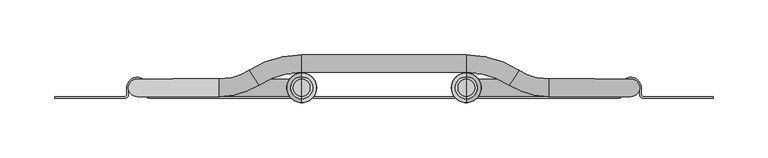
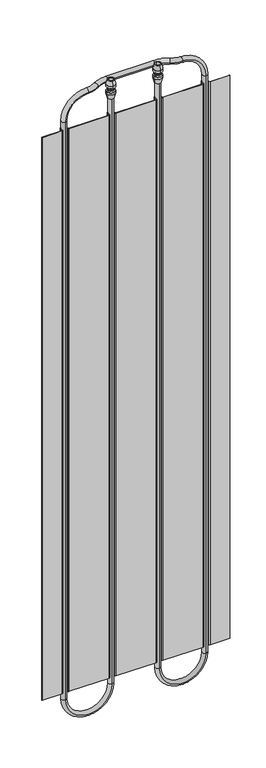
"""IFC4 building model written with IfcOpenShell, lengths in millimetres: plate geometry, 400_56_KOMF_NRG panel_asp_boven : Komfort NRG panel 600."""

from ifc_helpers import new_model, si_unit, point, frame, frame_2d, origin, place, context, project, spatial, polyline, circle_curve, ellipse_curve, trimmed, segment, composite_curve, outline, extrude, source, transform, mapped, element, save
from ifc_brep_helpers import plane_surface, cylinder_surface, revolved_surface, advanced_brep


def plate_3b3e8741(model_context):
    return source(origin(), model_context, "Body", "SolidModel", [
        advanced_brep(
        [(75.0, -2.0, 2420.4), (75.0, 0.0, 2420.4), (75.0, 16.0, 2420.4), (75.0, 18.0, 2420.4), (75.0, -5.5, 2405.4), (75.0, 21.5, 2405.4), (75.0, 0.0, 2405.4), (75.0, 16.0, 2405.4)],
        [
            (0, 1),
            (1, 2, circle_curve(frame((75.0, 8.0, 2420.4), z_axis=(0.0, 0.0, -1.0), x_axis=(0.0, 1.0, 0.0)), 8.0)),
            (2, 3),
            (3, 0, circle_curve(frame((75.0, 8.0, 2420.4), z_axis=(0.0, 0.0, 1.0), x_axis=(0.0, 1.0, 0.0)), 10.0)),
            (2, 1, circle_curve(frame((75.0, 8.0, 2420.4), z_axis=(0.0, 0.0, -1.0), x_axis=(0.0, 1.0, 0.0)), 8.0)),
            (0, 3, circle_curve(frame((75.0, 8.0, 2420.4), z_axis=(0.0, 0.0, 1.0), x_axis=(0.0, 1.0, 0.0)), 10.0)),
            (4, 0),
            (3, 5),
            (5, 4, circle_curve(frame((75.0, 8.0, 2405.4), z_axis=(0.0, 0.0, 1.0), x_axis=(0.0, 1.0, 0.0)), 13.5)),
            (4, 5, circle_curve(frame((75.0, 8.0, 2405.4), z_axis=(0.0, 0.0, 1.0), x_axis=(0.0, 1.0, 0.0)), 13.5)),
            (1, 6),
            (6, 7, circle_curve(frame((75.0, 8.0, 2405.4), z_axis=(0.0, 0.0, -1.0), x_axis=(0.0, 1.0, 0.0)), 8.0)),
            (7, 2),
            (7, 6, circle_curve(frame((75.0, 8.0, 2405.4), z_axis=(0.0, 0.0, -1.0), x_axis=(0.0, 1.0, 0.0)), 8.0)),
            (6, 4),
            (5, 7),
        ],
        [
            plane_surface(frame((75.0, 8.0, 2420.4), z_axis=(0.0, 0.0, 1.0), x_axis=(0.0, 1.0, 0.0))),
            revolved_surface(polyline([(75.0, 18.0, 2420.4), (75.0, 21.5, 2405.4)]), (75.0, 8.0, 2402.4), (0.0, 0.0, -1.0)),
            revolved_surface(polyline([(75.0, 16.0, 2405.4), (75.0, 16.0, 2420.4)]), (75.0, 8.0, 2402.4), (0.0, 0.0, -1.0)),
            plane_surface(frame((75.0, 8.0, 2405.4), z_axis=(0.0, 0.0, -1.0), x_axis=(0.0, 1.0, 0.0))),
        ],
        [
            (0, [[1, 2, 3, 4]]),
            (0, [[-3, 5, -1, 6]]),
            (1, [[7, -4, 8, 9]]),
            (1, [[-8, -6, -7, 10]]),
            (2, [[11, 12, 13, -2]]),
            (2, [[-13, 14, -11, -5]]),
            (3, [[15, -9, 16, -12]]),
            (3, [[-16, -10, -15, -14]]),
        ],
    ),
        advanced_brep(
        [(75.0, -5.5, 2397.4), (75.0, -5.5, 2405.4), (75.0, 21.5, 2405.4), (75.0, 21.5, 2397.4), (75.0, -2.0, 2394.4), (75.0, 18.0, 2394.4), (75.0, -2.0, 2391.4), (75.0, 18.0, 2391.4), (75.0, 8.0, 2391.4), (75.0, 0.0, 2405.4), (75.0, 0.0, 2402.4), (75.0, 16.0, 2402.4), (75.0, 16.0, 2405.4), (75.0, 8.0, 2402.4)],
        [
            (0, 1),
            (1, 2, circle_curve(frame((75.0, 8.0, 2405.4), z_axis=(0.0, 0.0, -1.0), x_axis=(0.0, 1.0, 0.0)), 13.5)),
            (2, 3),
            (3, 0, circle_curve(frame((75.0, 8.0, 2397.4), z_axis=(0.0, 0.0, 1.0), x_axis=(0.0, 1.0, 0.0)), 13.5)),
            (2, 1, circle_curve(frame((75.0, 8.0, 2405.4), z_axis=(0.0, 0.0, -1.0), x_axis=(0.0, 1.0, 0.0)), 13.5)),
            (0, 3, circle_curve(frame((75.0, 8.0, 2397.4), z_axis=(0.0, 0.0, 1.0), x_axis=(0.0, 1.0, 0.0)), 13.5)),
            (4, 0),
            (3, 5),
            (5, 4, circle_curve(frame((75.0, 8.0, 2394.4), z_axis=(0.0, 0.0, 1.0), x_axis=(0.0, 1.0, 0.0)), 10.0)),
            (4, 5, circle_curve(frame((75.0, 8.0, 2394.4), z_axis=(0.0, 0.0, 1.0), x_axis=(0.0, 1.0, 0.0)), 10.0)),
            (6, 4),
            (5, 7),
            (7, 6, circle_curve(frame((75.0, 8.0, 2391.4), z_axis=(0.0, 0.0, 1.0), x_axis=(0.0, 1.0, 0.0)), 10.0)),
            (6, 7, circle_curve(frame((75.0, 8.0, 2391.4), z_axis=(0.0, 0.0, 1.0), x_axis=(0.0, 1.0, 0.0)), 10.0)),
            (8, 6),
            (7, 8),
            (9, 10),
            (10, 11, circle_curve(frame((75.0, 8.0, 2402.4), z_axis=(0.0, 0.0, -1.0), x_axis=(0.0, 1.0, 0.0)), 8.0)),
            (11, 12),
            (12, 9, circle_curve(frame((75.0, 8.0, 2405.4), z_axis=(0.0, 0.0, 1.0), x_axis=(0.0, 1.0, 0.0)), 8.0)),
            (11, 10, circle_curve(frame((75.0, 8.0, 2402.4), z_axis=(0.0, 0.0, -1.0), x_axis=(0.0, 1.0, 0.0)), 8.0)),
            (9, 12, circle_curve(frame((75.0, 8.0, 2405.4), z_axis=(0.0, 0.0, 1.0), x_axis=(0.0, 1.0, 0.0)), 8.0)),
            (10, 13),
            (13, 11),
            (1, 9),
            (12, 2),
        ],
        [
            cylinder_surface(frame((75.0, 8.0, 2402.4), z_axis=(0.0, 0.0, -1.0), x_axis=(0.0, 1.0, 0.0)), 13.5),
            revolved_surface(polyline([(75.0, 21.5, 2397.4), (75.0, 18.0, 2394.4)]), (75.0, 8.0, 2402.4), (0.0, 0.0, -1.0)),
            cylinder_surface(frame((75.0, 8.0, 2402.4), z_axis=(0.0, 0.0, -1.0), x_axis=(0.0, 1.0, 0.0)), 10.0),
            plane_surface(frame((75.0, 8.0, 2391.4), z_axis=(0.0, 0.0, -1.0), x_axis=(0.0, 1.0, 0.0))),
            revolved_surface(polyline([(75.0, 16.0, 2402.4), (75.0, 16.0, 2405.4)]), (75.0, 8.0, 2402.4), (0.0, 0.0, -1.0)),
            plane_surface(frame((75.0, 8.0, 2402.4), z_axis=(0.0, 0.0, 1.0), x_axis=(0.0, 1.0, 0.0))),
            plane_surface(frame((75.0, 8.0, 2405.4), z_axis=(0.0, 0.0, 1.0), x_axis=(0.0, 1.0, 0.0))),
        ],
        [
            (0, [[1, 2, 3, 4]]),
            (0, [[-3, 5, -1, 6]]),
            (1, [[7, -4, 8, 9]]),
            (1, [[-8, -6, -7, 10]]),
            (2, [[11, -9, 12, 13]]),
            (2, [[-12, -10, -11, 14]]),
            (3, [[15, -13, 16]]),
            (3, [[-16, -14, -15]]),
            (4, [[17, 18, 19, 20]]),
            (4, [[-19, 21, -17, 22]]),
            (5, [[23, 24, -18]]),
            (5, [[-24, -23, -21]]),
            (6, [[25, -20, 26, -2]]),
            (6, [[-26, -22, -25, -5]]),
        ],
    ),
        advanced_brep(
        [(65.0, 8.0, 2360.0), (67.0, 8.0, 2360.0), (83.0, 8.0, 2360.0), (85.0, 8.0, 2360.0), (61.5, 8.0, 2375.0), (88.5, 8.0, 2375.0), (67.0, 8.0, 2375.0), (83.0, 8.0, 2375.0)],
        [
            (0, 1),
            (1, 2, circle_curve(frame((75.0, 8.0, 2360.0), z_axis=(0.0, 0.0, 1.0), x_axis=(1.0, 0.0, 0.0)), 8.0)),
            (2, 3),
            (3, 0, circle_curve(frame((75.0, 8.0, 2360.0), z_axis=(0.0, 0.0, -1.0), x_axis=(1.0, 0.0, 0.0)), 10.0)),
            (2, 1, circle_curve(frame((75.0, 8.0, 2360.0), z_axis=(0.0, 0.0, 1.0), x_axis=(1.0, 0.0, 0.0)), 8.0)),
            (0, 3, circle_curve(frame((75.0, 8.0, 2360.0), z_axis=(0.0, 0.0, -1.0), x_axis=(1.0, 0.0, 0.0)), 10.0)),
            (4, 0),
            (3, 5),
            (5, 4, circle_curve(frame((75.0, 8.0, 2375.0), z_axis=(0.0, 0.0, -1.0), x_axis=(1.0, 0.0, 0.0)), 13.5)),
            (4, 5, circle_curve(frame((75.0, 8.0, 2375.0), z_axis=(0.0, 0.0, -1.0), x_axis=(1.0, 0.0, 0.0)), 13.5)),
            (1, 6),
            (6, 7, circle_curve(frame((75.0, 8.0, 2375.0), z_axis=(0.0, 0.0, 1.0), x_axis=(1.0, 0.0, 0.0)), 8.0)),
            (7, 2),
            (7, 6, circle_curve(frame((75.0, 8.0, 2375.0), z_axis=(0.0, 0.0, 1.0), x_axis=(1.0, 0.0, 0.0)), 8.0)),
            (6, 4),
            (5, 7),
        ],
        [
            plane_surface(frame((75.0, 8.0, 2360.0), z_axis=(0.0, 0.0, -1.0), x_axis=(1.0, 0.0, 0.0))),
            revolved_surface(polyline([(85.0, 8.0, 2360.0), (88.5, 8.0, 2375.0)]), (75.0, 8.0, 2378.0), (0.0, 0.0, 1.0)),
            revolved_surface(polyline([(83.0, 8.0, 2375.0), (83.0, 8.0, 2360.0)]), (75.0, 8.0, 2378.0), (0.0, 0.0, 1.0)),
            plane_surface(frame((75.0, 8.0, 2375.0), z_axis=(0.0, 0.0, 1.0), x_axis=(1.0, 0.0, 0.0))),
        ],
        [
            (0, [[1, 2, 3, 4]]),
            (0, [[-3, 5, -1, 6]]),
            (1, [[7, -4, 8, 9]]),
            (1, [[-8, -6, -7, 10]]),
            (2, [[11, 12, 13, -2]]),
            (2, [[-13, 14, -11, -5]]),
            (3, [[15, -9, 16, -12]]),
            (3, [[-16, -10, -15, -14]]),
        ],
    ),
        advanced_brep(
        [(61.5, 8.0, 2383.0), (61.5, 8.0, 2375.0), (88.5, 8.0, 2375.0), (88.5, 8.0, 2383.0), (65.0, 8.0, 2386.0), (85.0, 8.0, 2386.0), (65.0, 8.0, 2389.0), (85.0, 8.0, 2389.0), (75.0, 8.0, 2389.0), (67.0, 8.0, 2375.0), (67.0, 8.0, 2378.0), (83.0, 8.0, 2378.0), (83.0, 8.0, 2375.0), (75.0, 8.0, 2378.0)],
        [
            (0, 1),
            (1, 2, circle_curve(frame((75.0, 8.0, 2375.0), z_axis=(0.0, 0.0, 1.0), x_axis=(1.0, 0.0, 0.0)), 13.5)),
            (2, 3),
            (3, 0, circle_curve(frame((75.0, 8.0, 2383.0), z_axis=(0.0, 0.0, -1.0), x_axis=(1.0, 0.0, 0.0)), 13.5)),
            (2, 1, circle_curve(frame((75.0, 8.0, 2375.0), z_axis=(0.0, 0.0, 1.0), x_axis=(1.0, 0.0, 0.0)), 13.5)),
            (0, 3, circle_curve(frame((75.0, 8.0, 2383.0), z_axis=(0.0, 0.0, -1.0), x_axis=(1.0, 0.0, 0.0)), 13.5)),
            (4, 0),
            (3, 5),
            (5, 4, circle_curve(frame((75.0, 8.0, 2386.0), z_axis=(0.0, 0.0, -1.0), x_axis=(1.0, 0.0, 0.0)), 10.0)),
            (4, 5, circle_curve(frame((75.0, 8.0, 2386.0), z_axis=(0.0, 0.0, -1.0), x_axis=(1.0, 0.0, 0.0)), 10.0)),
            (6, 4),
            (5, 7),
            (7, 6, circle_curve(frame((75.0, 8.0, 2389.0), z_axis=(0.0, 0.0, -1.0), x_axis=(1.0, 0.0, 0.0)), 10.0)),
            (6, 7, circle_curve(frame((75.0, 8.0, 2389.0), z_axis=(0.0, 0.0, -1.0), x_axis=(1.0, 0.0, 0.0)), 10.0)),
            (8, 6),
            (7, 8),
            (9, 10),
            (10, 11, circle_curve(frame((75.0, 8.0, 2378.0), z_axis=(0.0, 0.0, 1.0), x_axis=(1.0, 0.0, 0.0)), 8.0)),
            (11, 12),
            (12, 9, circle_curve(frame((75.0, 8.0, 2375.0), z_axis=(0.0, 0.0, -1.0), x_axis=(1.0, 0.0, 0.0)), 8.0)),
            (11, 10, circle_curve(frame((75.0, 8.0, 2378.0), z_axis=(0.0, 0.0, 1.0), x_axis=(1.0, 0.0, 0.0)), 8.0)),
            (9, 12, circle_curve(frame((75.0, 8.0, 2375.0), z_axis=(0.0, 0.0, -1.0), x_axis=(1.0, 0.0, 0.0)), 8.0)),
            (10, 13),
            (13, 11),
            (1, 9),
            (12, 2),
        ],
        [
            cylinder_surface(frame((75.0, 8.0, 2378.0), z_axis=(0.0, 0.0, 1.0), x_axis=(1.0, 0.0, 0.0)), 13.5),
            revolved_surface(polyline([(88.5, 8.0, 2383.0), (85.0, 8.0, 2386.0)]), (75.0, 8.0, 2378.0), (0.0, 0.0, 1.0)),
            cylinder_surface(frame((75.0, 8.0, 2378.0), z_axis=(0.0, 0.0, 1.0), x_axis=(1.0, 0.0, 0.0)), 10.0),
            plane_surface(frame((75.0, 8.0, 2389.0), z_axis=(0.0, 0.0, 1.0), x_axis=(1.0, 0.0, 0.0))),
            revolved_surface(polyline([(83.0, 8.0, 2378.0), (83.0, 8.0, 2375.0)]), (75.0, 8.0, 2378.0), (0.0, 0.0, 1.0)),
            plane_surface(frame((75.0, 8.0, 2378.0), z_axis=(0.0, 0.0, -1.0), x_axis=(1.0, 0.0, 0.0))),
            plane_surface(frame((75.0, 8.0, 2375.0), z_axis=(0.0, 0.0, -1.0), x_axis=(1.0, 0.0, 0.0))),
        ],
        [
            (0, [[1, 2, 3, 4]]),
            (0, [[-3, 5, -1, 6]]),
            (1, [[7, -4, 8, 9]]),
            (1, [[-8, -6, -7, 10]]),
            (2, [[11, -9, 12, 13]]),
            (2, [[-12, -10, -11, 14]]),
            (3, [[15, -13, 16]]),
            (3, [[-16, -14, -15]]),
            (4, [[17, 18, 19, 20]]),
            (4, [[-19, 21, -17, 22]]),
            (5, [[23, 24, -18]]),
            (5, [[-24, -23, -21]]),
            (6, [[25, -20, 26, -2]]),
            (6, [[-26, -22, -25, -5]]),
        ],
    ),
        extrude(outline(composite_curve([segment(trimmed(circle_curve(frame_2d((75.0, 8.0)), 10.5), [point((64.5, 8.0))], [point((75.0, 18.5))], False, "CARTESIAN"), True, "CONTINUOUS"), segment(trimmed(circle_curve(frame_2d((75.0, 8.0)), 10.5), [point((75.0, 18.5))], [point((85.5, 8.0))], False, "CARTESIAN"), True, "CONTINUOUS"), segment(trimmed(circle_curve(frame_2d((75.0, 8.0)), 10.5), [point((85.5, 8.0))], [point((75.0, -2.5))], False, "CARTESIAN"), True, "CONTINUOUS"), segment(trimmed(circle_curve(frame_2d((75.0, 8.0)), 10.5), [point((75.0, -2.5))], [point((64.5, 8.0))], False, "CARTESIAN"), True, "CONTINUOUS")], self_intersect=False)), frame((0.0, 0.0, 2389.0), z_axis=(0.0, 0.0, 1.0), x_axis=(1.0, 0.0, 0.0)), (0.0, 0.0, 1.0), 2.4),
        extrude(outline(composite_curve([segment(trimmed(circle_curve(frame_2d((75.0, 8.0)), 6.0), [point((69.0, 8.0))], [point((75.0, 14.0))], False, "CARTESIAN"), True, "CONTINUOUS"), segment(trimmed(circle_curve(frame_2d((75.0, 8.0)), 6.0), [point((75.0, 14.0))], [point((81.0, 8.0))], False, "CARTESIAN"), True, "CONTINUOUS"), segment(trimmed(circle_curve(frame_2d((75.0, 8.0)), 6.0), [point((81.0, 8.0))], [point((75.0, 2.0))], False, "CARTESIAN"), True, "CONTINUOUS"), segment(trimmed(circle_curve(frame_2d((75.0, 8.0)), 6.0), [point((75.0, 2.0))], [point((69.0, 8.0))], False, "CARTESIAN"), True, "CONTINUOUS")], self_intersect=False)), frame((0.0, 0.0, 2378.0), z_axis=(0.0, 0.0, 1.0), x_axis=(1.0, 0.0, 0.0)), (0.0, 0.0, 1.0), 24.4),
        advanced_brep(
        [(-75.0, -2.0, 2420.4), (-75.0, 18.0, 2420.4), (-75.0, 16.0, 2420.4), (-75.0, 0.0, 2420.4), (-75.0, -5.5, 2405.4), (-75.0, 21.5, 2405.4), (-75.0, 16.0, 2405.4), (-75.0, 0.0, 2405.4)],
        [
            (0, 1, circle_curve(frame((-75.0, 8.0, 2420.4), z_axis=(0.0, 0.0, 1.0), x_axis=(0.0, 1.0, 0.0)), 10.0)),
            (1, 2),
            (2, 3, circle_curve(frame((-75.0, 8.0, 2420.4), z_axis=(0.0, 0.0, -1.0), x_axis=(0.0, 1.0, 0.0)), 8.0)),
            (3, 0),
            (1, 0, circle_curve(frame((-75.0, 8.0, 2420.4), z_axis=(0.0, 0.0, 1.0), x_axis=(0.0, 1.0, 0.0)), 10.0)),
            (3, 2, circle_curve(frame((-75.0, 8.0, 2420.4), z_axis=(0.0, 0.0, -1.0), x_axis=(0.0, 1.0, 0.0)), 8.0)),
            (4, 5, circle_curve(frame((-75.0, 8.0, 2405.4), z_axis=(0.0, 0.0, 1.0), x_axis=(0.0, 1.0, 0.0)), 13.5)),
            (5, 1),
            (0, 4),
            (5, 4, circle_curve(frame((-75.0, 8.0, 2405.4), z_axis=(0.0, 0.0, 1.0), x_axis=(0.0, 1.0, 0.0)), 13.5)),
            (2, 6),
            (6, 7, circle_curve(frame((-75.0, 8.0, 2405.4), z_axis=(0.0, 0.0, -1.0), x_axis=(0.0, 1.0, 0.0)), 8.0)),
            (7, 3),
            (7, 6, circle_curve(frame((-75.0, 8.0, 2405.4), z_axis=(0.0, 0.0, -1.0), x_axis=(0.0, 1.0, 0.0)), 8.0)),
            (6, 5),
            (4, 7),
        ],
        [
            plane_surface(frame((-75.0, 8.0, 2420.4), z_axis=(0.0, 0.0, 1.0), x_axis=(0.0, 1.0, 0.0))),
            revolved_surface(polyline([(-75.0, 18.0, 2420.4), (-75.0, 21.5, 2405.4)]), (-75.0, 8.0, 2402.4), (0.0, 0.0, -1.0)),
            revolved_surface(polyline([(-75.0, 16.0, 2405.4), (-75.0, 16.0, 2420.4)]), (-75.0, 8.0, 2402.4), (0.0, 0.0, -1.0)),
            plane_surface(frame((-75.0, 8.0, 2405.4), z_axis=(0.0, 0.0, -1.0), x_axis=(0.0, 1.0, 0.0))),
        ],
        [
            (0, [[1, 2, 3, 4]]),
            (0, [[5, -4, 6, -2]]),
            (1, [[7, 8, -1, 9]]),
            (1, [[10, -9, -5, -8]]),
            (2, [[-3, 11, 12, 13]]),
            (2, [[-6, -13, 14, -11]]),
            (3, [[-12, 15, -7, 16]]),
            (3, [[-14, -16, -10, -15]]),
        ],
    ),
        advanced_brep(
        [(-75.0, -5.5, 2397.4), (-75.0, 21.5, 2397.4), (-75.0, 21.5, 2405.4), (-75.0, -5.5, 2405.4), (-75.0, -2.0, 2394.4), (-75.0, 18.0, 2394.4), (-75.0, -2.0, 2391.4), (-75.0, 18.0, 2391.4), (-75.0, 8.0, 2391.4), (-75.0, 0.0, 2405.4), (-75.0, 16.0, 2405.4), (-75.0, 16.0, 2402.4), (-75.0, 0.0, 2402.4), (-75.0, 8.0, 2402.4)],
        [
            (0, 1, circle_curve(frame((-75.0, 8.0, 2397.4), z_axis=(0.0, 0.0, 1.0), x_axis=(0.0, 1.0, 0.0)), 13.5)),
            (1, 2),
            (2, 3, circle_curve(frame((-75.0, 8.0, 2405.4), z_axis=(0.0, 0.0, -1.0), x_axis=(0.0, 1.0, 0.0)), 13.5)),
            (3, 0),
            (1, 0, circle_curve(frame((-75.0, 8.0, 2397.4), z_axis=(0.0, 0.0, 1.0), x_axis=(0.0, 1.0, 0.0)), 13.5)),
            (3, 2, circle_curve(frame((-75.0, 8.0, 2405.4), z_axis=(0.0, 0.0, -1.0), x_axis=(0.0, 1.0, 0.0)), 13.5)),
            (4, 5, circle_curve(frame((-75.0, 8.0, 2394.4), z_axis=(0.0, 0.0, 1.0), x_axis=(0.0, 1.0, 0.0)), 10.0)),
            (5, 1),
            (0, 4),
            (5, 4, circle_curve(frame((-75.0, 8.0, 2394.4), z_axis=(0.0, 0.0, 1.0), x_axis=(0.0, 1.0, 0.0)), 10.0)),
            (6, 7, circle_curve(frame((-75.0, 8.0, 2391.4), z_axis=(0.0, 0.0, 1.0), x_axis=(0.0, 1.0, 0.0)), 10.0)),
            (7, 5),
            (4, 6),
            (7, 6, circle_curve(frame((-75.0, 8.0, 2391.4), z_axis=(0.0, 0.0, 1.0), x_axis=(0.0, 1.0, 0.0)), 10.0)),
            (8, 7),
            (6, 8),
            (9, 10, circle_curve(frame((-75.0, 8.0, 2405.4), z_axis=(0.0, 0.0, 1.0), x_axis=(0.0, 1.0, 0.0)), 8.0)),
            (10, 11),
            (11, 12, circle_curve(frame((-75.0, 8.0, 2402.4), z_axis=(0.0, 0.0, -1.0), x_axis=(0.0, 1.0, 0.0)), 8.0)),
            (12, 9),
            (10, 9, circle_curve(frame((-75.0, 8.0, 2405.4), z_axis=(0.0, 0.0, 1.0), x_axis=(0.0, 1.0, 0.0)), 8.0)),
            (12, 11, circle_curve(frame((-75.0, 8.0, 2402.4), z_axis=(0.0, 0.0, -1.0), x_axis=(0.0, 1.0, 0.0)), 8.0)),
            (11, 13),
            (13, 12),
            (2, 10),
            (9, 3),
        ],
        [
            cylinder_surface(frame((-75.0, 8.0, 2402.4), z_axis=(0.0, 0.0, -1.0), x_axis=(0.0, 1.0, 0.0)), 13.5),
            revolved_surface(polyline([(-75.0, 21.5, 2397.4), (-75.0, 18.0, 2394.4)]), (-75.0, 8.0, 2402.4), (0.0, 0.0, -1.0)),
            cylinder_surface(frame((-75.0, 8.0, 2402.4), z_axis=(0.0, 0.0, -1.0), x_axis=(0.0, 1.0, 0.0)), 10.0),
            plane_surface(frame((-75.0, 8.0, 2391.4), z_axis=(0.0, 0.0, -1.0), x_axis=(0.0, 1.0, 0.0))),
            revolved_surface(polyline([(-75.0, 16.0, 2402.4), (-75.0, 16.0, 2405.4)]), (-75.0, 8.0, 2402.4), (0.0, 0.0, -1.0)),
            plane_surface(frame((-75.0, 8.0, 2402.4), z_axis=(0.0, 0.0, 1.0), x_axis=(0.0, 1.0, 0.0))),
            plane_surface(frame((-75.0, 8.0, 2405.4), z_axis=(0.0, 0.0, 1.0), x_axis=(0.0, 1.0, 0.0))),
        ],
        [
            (0, [[1, 2, 3, 4]]),
            (0, [[5, -4, 6, -2]]),
            (1, [[7, 8, -1, 9]]),
            (1, [[10, -9, -5, -8]]),
            (2, [[11, 12, -7, 13]]),
            (2, [[14, -13, -10, -12]]),
            (3, [[15, -11, 16]]),
            (3, [[-16, -14, -15]]),
            (4, [[17, 18, 19, 20]]),
            (4, [[21, -20, 22, -18]]),
            (5, [[-19, 23, 24]]),
            (5, [[-22, -24, -23]]),
            (6, [[-3, 25, -17, 26]]),
            (6, [[-6, -26, -21, -25]]),
        ],
    ),
        advanced_brep(
        [(-65.0, 8.0, 2360.0), (-85.0, 8.0, 2360.0), (-83.0, 8.0, 2360.0), (-67.0, 8.0, 2360.0), (-61.5, 8.0, 2375.0), (-88.5, 8.0, 2375.0), (-83.0, 8.0, 2375.0), (-67.0, 8.0, 2375.0)],
        [
            (0, 1, circle_curve(frame((-75.0, 8.0, 2360.0), z_axis=(0.0, 0.0, -1.0), x_axis=(-1.0, 0.0, 0.0)), 10.0)),
            (1, 2),
            (2, 3, circle_curve(frame((-75.0, 8.0, 2360.0), z_axis=(0.0, 0.0, 1.0), x_axis=(-1.0, 0.0, 0.0)), 8.0)),
            (3, 0),
            (1, 0, circle_curve(frame((-75.0, 8.0, 2360.0), z_axis=(0.0, 0.0, -1.0), x_axis=(-1.0, 0.0, 0.0)), 10.0)),
            (3, 2, circle_curve(frame((-75.0, 8.0, 2360.0), z_axis=(0.0, 0.0, 1.0), x_axis=(-1.0, 0.0, 0.0)), 8.0)),
            (4, 5, circle_curve(frame((-75.0, 8.0, 2375.0), z_axis=(0.0, 0.0, -1.0), x_axis=(-1.0, 0.0, 0.0)), 13.5)),
            (5, 1),
            (0, 4),
            (5, 4, circle_curve(frame((-75.0, 8.0, 2375.0), z_axis=(0.0, 0.0, -1.0), x_axis=(-1.0, 0.0, 0.0)), 13.5)),
            (2, 6),
            (6, 7, circle_curve(frame((-75.0, 8.0, 2375.0), z_axis=(0.0, 0.0, 1.0), x_axis=(-1.0, 0.0, 0.0)), 8.0)),
            (7, 3),
            (7, 6, circle_curve(frame((-75.0, 8.0, 2375.0), z_axis=(0.0, 0.0, 1.0), x_axis=(-1.0, 0.0, 0.0)), 8.0)),
            (6, 5),
            (4, 7),
        ],
        [
            plane_surface(frame((-75.0, 8.0, 2360.0), z_axis=(0.0, 0.0, -1.0), x_axis=(-1.0, 0.0, 0.0))),
            revolved_surface(polyline([(-85.0, 8.0, 2360.0), (-88.5, 8.0, 2375.0)]), (-75.0, 8.0, 2378.0), (0.0, 0.0, 1.0)),
            revolved_surface(polyline([(-83.0, 8.0, 2375.0), (-83.0, 8.0, 2360.0)]), (-75.0, 8.0, 2378.0), (0.0, 0.0, 1.0)),
            plane_surface(frame((-75.0, 8.0, 2375.0), z_axis=(0.0, 0.0, 1.0), x_axis=(-1.0, 0.0, 0.0))),
        ],
        [
            (0, [[1, 2, 3, 4]]),
            (0, [[5, -4, 6, -2]]),
            (1, [[7, 8, -1, 9]]),
            (1, [[10, -9, -5, -8]]),
            (2, [[-3, 11, 12, 13]]),
            (2, [[-6, -13, 14, -11]]),
            (3, [[-12, 15, -7, 16]]),
            (3, [[-14, -16, -10, -15]]),
        ],
    ),
        advanced_brep(
        [(-61.5, 8.0, 2383.0), (-88.5, 8.0, 2383.0), (-88.5, 8.0, 2375.0), (-61.5, 8.0, 2375.0), (-65.0, 8.0, 2386.0), (-85.0, 8.0, 2386.0), (-65.0, 8.0, 2389.0), (-85.0, 8.0, 2389.0), (-75.0, 8.0, 2389.0), (-67.0, 8.0, 2375.0), (-83.0, 8.0, 2375.0), (-83.0, 8.0, 2378.0), (-67.0, 8.0, 2378.0), (-75.0, 8.0, 2378.0)],
        [
            (0, 1, circle_curve(frame((-75.0, 8.0, 2383.0), z_axis=(0.0, 0.0, -1.0), x_axis=(-1.0, 0.0, 0.0)), 13.5)),
            (1, 2),
            (2, 3, circle_curve(frame((-75.0, 8.0, 2375.0), z_axis=(0.0, 0.0, 1.0), x_axis=(-1.0, 0.0, 0.0)), 13.5)),
            (3, 0),
            (1, 0, circle_curve(frame((-75.0, 8.0, 2383.0), z_axis=(0.0, 0.0, -1.0), x_axis=(-1.0, 0.0, 0.0)), 13.5)),
            (3, 2, circle_curve(frame((-75.0, 8.0, 2375.0), z_axis=(0.0, 0.0, 1.0), x_axis=(-1.0, 0.0, 0.0)), 13.5)),
            (4, 5, circle_curve(frame((-75.0, 8.0, 2386.0), z_axis=(0.0, 0.0, -1.0), x_axis=(-1.0, 0.0, 0.0)), 10.0)),
            (5, 1),
            (0, 4),
            (5, 4, circle_curve(frame((-75.0, 8.0, 2386.0), z_axis=(0.0, 0.0, -1.0), x_axis=(-1.0, 0.0, 0.0)), 10.0)),
            (6, 7, circle_curve(frame((-75.0, 8.0, 2389.0), z_axis=(0.0, 0.0, -1.0), x_axis=(-1.0, 0.0, 0.0)), 10.0)),
            (7, 5),
            (4, 6),
            (7, 6, circle_curve(frame((-75.0, 8.0, 2389.0), z_axis=(0.0, 0.0, -1.0), x_axis=(-1.0, 0.0, 0.0)), 10.0)),
            (8, 7),
            (6, 8),
            (9, 10, circle_curve(frame((-75.0, 8.0, 2375.0), z_axis=(0.0, 0.0, -1.0), x_axis=(-1.0, 0.0, 0.0)), 8.0)),
            (10, 11),
            (11, 12, circle_curve(frame((-75.0, 8.0, 2378.0), z_axis=(0.0, 0.0, 1.0), x_axis=(-1.0, 0.0, 0.0)), 8.0)),
            (12, 9),
            (10, 9, circle_curve(frame((-75.0, 8.0, 2375.0), z_axis=(0.0, 0.0, -1.0), x_axis=(-1.0, 0.0, 0.0)), 8.0)),
            (12, 11, circle_curve(frame((-75.0, 8.0, 2378.0), z_axis=(0.0, 0.0, 1.0), x_axis=(-1.0, 0.0, 0.0)), 8.0)),
            (11, 13),
            (13, 12),
            (2, 10),
            (9, 3),
        ],
        [
            cylinder_surface(frame((-75.0, 8.0, 2378.0), z_axis=(0.0, 0.0, 1.0), x_axis=(-1.0, 0.0, 0.0)), 13.5),
            revolved_surface(polyline([(-88.5, 8.0, 2383.0), (-85.0, 8.0, 2386.0)]), (-75.0, 8.0, 2378.0), (0.0, 0.0, 1.0)),
            cylinder_surface(frame((-75.0, 8.0, 2378.0), z_axis=(0.0, 0.0, 1.0), x_axis=(-1.0, 0.0, 0.0)), 10.0),
            plane_surface(frame((-75.0, 8.0, 2389.0), z_axis=(0.0, 0.0, 1.0), x_axis=(-1.0, 0.0, 0.0))),
            revolved_surface(polyline([(-83.0, 8.0, 2378.0), (-83.0, 8.0, 2375.0)]), (-75.0, 8.0, 2378.0), (0.0, 0.0, 1.0)),
            plane_surface(frame((-75.0, 8.0, 2378.0), z_axis=(0.0, 0.0, -1.0), x_axis=(-1.0, 0.0, 0.0))),
            plane_surface(frame((-75.0, 8.0, 2375.0), z_axis=(0.0, 0.0, -1.0), x_axis=(-1.0, 0.0, 0.0))),
        ],
        [
            (0, [[1, 2, 3, 4]]),
            (0, [[5, -4, 6, -2]]),
            (1, [[7, 8, -1, 9]]),
            (1, [[10, -9, -5, -8]]),
            (2, [[11, 12, -7, 13]]),
            (2, [[14, -13, -10, -12]]),
            (3, [[15, -11, 16]]),
            (3, [[-16, -14, -15]]),
            (4, [[17, 18, 19, 20]]),
            (4, [[21, -20, 22, -18]]),
            (5, [[-19, 23, 24]]),
            (5, [[-22, -24, -23]]),
            (6, [[-3, 25, -17, 26]]),
            (6, [[-6, -26, -21, -25]]),
        ],
    ),
        extrude(outline(composite_curve([segment(trimmed(circle_curve(frame_2d((-75.0, 8.0)), 10.5), [point((-64.5, 8.0))], [point((-75.0, -2.5))], False, "CARTESIAN"), True, "CONTINUOUS"), segment(trimmed(circle_curve(frame_2d((-75.0, 8.0)), 10.5), [point((-75.0, -2.5))], [point((-85.5, 8.0))], False, "CARTESIAN"), True, "CONTINUOUS"), segment(trimmed(circle_curve(frame_2d((-75.0, 8.0)), 10.5), [point((-85.5, 8.0))], [point((-75.0, 18.5))], False, "CARTESIAN"), True, "CONTINUOUS"), segment(trimmed(circle_curve(frame_2d((-75.0, 8.0)), 10.5), [point((-75.0, 18.5))], [point((-64.5, 8.0))], False, "CARTESIAN"), True, "CONTINUOUS")], self_intersect=False)), frame((0.0, 0.0, 2389.0), z_axis=(0.0, 0.0, 1.0), x_axis=(1.0, 0.0, 0.0)), (0.0, 0.0, 1.0), 2.4),
        extrude(outline(composite_curve([segment(trimmed(circle_curve(frame_2d((-75.0, 8.0)), 6.0), [point((-69.0, 8.0))], [point((-75.0, 2.0))], False, "CARTESIAN"), True, "CONTINUOUS"), segment(trimmed(circle_curve(frame_2d((-75.0, 8.0)), 6.0), [point((-75.0, 2.0))], [point((-81.0, 8.0))], False, "CARTESIAN"), True, "CONTINUOUS"), segment(trimmed(circle_curve(frame_2d((-75.0, 8.0)), 6.0), [point((-81.0, 8.0))], [point((-75.0, 14.0))], False, "CARTESIAN"), True, "CONTINUOUS"), segment(trimmed(circle_curve(frame_2d((-75.0, 8.0)), 6.0), [point((-75.0, 14.0))], [point((-69.0, 8.0))], False, "CARTESIAN"), True, "CONTINUOUS")], self_intersect=False)), frame((0.0, 0.0, 2378.0), z_axis=(0.0, 0.0, 1.0), x_axis=(1.0, 0.0, 0.0)), (0.0, 0.0, 1.0), 24.4),
        advanced_brep(
        [(-75.0, 38.0, 2408.0), (-75.0, 22.0, 2408.0), (75.0, 22.0, 2408.0), (75.0, 38.0, 2408.0), (-123.0211911, 23.913784, 2408.0), (-150.0, 16.0, 2408.0), (-150.0, 0.0, 2408.0), (-114.3782053, 10.4490598, 2408.0), (114.3782053, 10.4490598, 2408.0), (123.0211911, 23.913784, 2408.0), (150.0, 0.0, 2408.0), (150.0, 16.0, 2408.0), (225.0, 16.0, 2333.0), (225.0, 0.0, 2333.0), (225.0, 0.0, 383.0), (225.0, 16.0, 383.0), (75.0, 0.0, 383.0), (75.0, 16.0, 383.0), (75.0, 16.0, 2378.0), (75.0, 0.0, 2378.0), (-225.0, 0.0, 2333.0), (-225.0, 16.0, 2333.0), (-225.0, 16.0, 383.0), (-225.0, 0.0, 383.0), (-75.0, 16.0, 383.0), (-75.0, 0.0, 383.0), (-75.0, 16.0, 2378.0), (-75.0, 0.0, 2378.0)],
        [
            (0, 1, circle_curve(frame((-75.0, 30.0, 2408.0), z_axis=(1.0, 0.0, 0.0), x_axis=(0.0, 1.0, 0.0)), 8.0)),
            (1, 2),
            (2, 3, circle_curve(frame((75.0, 30.0, 2408.0), z_axis=(-1.0, 0.0, 0.0), x_axis=(0.0, 1.0, 0.0)), 8.0)),
            (3, 0),
            (1, 0, circle_curve(frame((-75.0, 30.0, 2408.0), z_axis=(1.0, 0.0, 0.0), x_axis=(0.0, 1.0, 0.0)), 8.0)),
            (3, 2, circle_curve(frame((75.0, 30.0, 2408.0), z_axis=(-1.0, 0.0, 0.0), x_axis=(0.0, 1.0, 0.0)), 8.0)),
            (4, 5, circle_curve(frame((-150.0, 65.9434981, 2408.0), z_axis=(0.0, 0.0, -1.0), x_axis=(0.0, -1.0, 0.0)), 49.9434981)),
            (5, 6, circle_curve(frame((-150.0, 8.0, 2408.0), z_axis=(1.0, 0.0, 0.0), x_axis=(0.0, 1.0, 0.0)), 8.0)),
            (6, 7, circle_curve(frame((-150.0, 65.9434981, 2408.0), z_axis=(0.0, 0.0, 1.0), x_axis=(0.0, -1.0, 0.0)), 65.9434981)),
            (7, 4, circle_curve(frame((-118.6996982, 17.1814219, 2408.0), z_axis=(-0.8415452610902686, -0.5401866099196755, 0.0), x_axis=(-0.5401866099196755, 0.8415452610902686, 0.0)), 8.0)),
            (4, 7, circle_curve(frame((-118.6996982, 17.1814219, 2408.0), z_axis=(-0.8415452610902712, -0.5401866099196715, 0.0), x_axis=(-0.5401866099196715, 0.8415452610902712, 0.0)), 8.0)),
            (6, 5, circle_curve(frame((-150.0, 8.0, 2408.0), z_axis=(1.0, 0.0, 0.0), x_axis=(0.0, 1.0, 0.0)), 8.0)),
            (0, 4, circle_curve(frame((-75.0, -50.897411, 2408.0), z_axis=(0.0, 0.0, 1.0), x_axis=(-0.5401866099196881, 0.8415452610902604, 0.0)), 88.897411)),
            (7, 1, circle_curve(frame((-75.0, -50.897411, 2408.0), z_axis=(0.0, 0.0, -1.0), x_axis=(-0.5401866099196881, 0.8415452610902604, 0.0)), 72.897411)),
            (2, 8, circle_curve(frame((75.0, -50.897411, 2408.0), z_axis=(0.0, 0.0, -1.0), x_axis=(0.0, 1.0, 0.0)), 72.897411)),
            (8, 9, circle_curve(frame((118.6996982, 17.1814219, 2408.0), z_axis=(-0.8415452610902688, 0.5401866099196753, 0.0), x_axis=(0.5401866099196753, 0.8415452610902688, 0.0)), 8.0)),
            (9, 3, circle_curve(frame((75.0, -50.897411, 2408.0), z_axis=(0.0, 0.0, 1.0), x_axis=(0.0, 1.0, 0.0)), 88.897411)),
            (9, 8, circle_curve(frame((118.6996982, 17.1814219, 2408.0), z_axis=(-0.8415452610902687, 0.5401866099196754, 0.0), x_axis=(0.5401866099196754, 0.8415452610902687, 0.0)), 8.0)),
            (8, 10, circle_curve(frame((150.0, 65.9434981, 2408.0), z_axis=(0.0, 0.0, 1.0), x_axis=(-0.5401866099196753, -0.8415452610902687, 0.0)), 65.9434981)),
            (10, 11, circle_curve(frame((150.0, 8.0, 2408.0), z_axis=(-1.0, 0.0, 0.0), x_axis=(0.0, 1.0, 0.0)), 8.0)),
            (11, 9, circle_curve(frame((150.0, 65.9434981, 2408.0), z_axis=(0.0, 0.0, -1.0), x_axis=(-0.5401866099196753, -0.8415452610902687, 0.0)), 49.9434981)),
            (11, 10, circle_curve(frame((150.0, 8.0, 2408.0), z_axis=(-1.0, 0.0, 0.0), x_axis=(0.0, 1.0, 0.0)), 8.0)),
            (12, 11, circle_curve(frame((150.0, 16.0, 2333.0), z_axis=(0.0, -1.0, 0.0), x_axis=(0.0, 0.0, 1.0)), 75.0)),
            (10, 13, circle_curve(frame((150.0, 0.0, 2333.0), z_axis=(0.0, 1.0, 0.0), x_axis=(0.0, 0.0, 1.0)), 75.0)),
            (13, 12, circle_curve(frame((225.0, 8.0, 2333.0), z_axis=(0.0, 0.0, 1.0), x_axis=(0.0, -1.0, 0.0)), 8.0)),
            (12, 13, circle_curve(frame((225.0, 8.0, 2333.0), z_axis=(0.0, 0.0, 1.0), x_axis=(0.0, -1.0, 0.0)), 8.0)),
            (13, 14),
            (14, 15, circle_curve(frame((225.0, 8.0, 383.0), z_axis=(0.0, 0.0, 1.0), x_axis=(0.0, -1.0, 0.0)), 8.0)),
            (15, 12),
            (15, 14, circle_curve(frame((225.0, 8.0, 383.0), z_axis=(0.0, 0.0, 1.0), x_axis=(0.0, -1.0, 0.0)), 8.0)),
            (14, 16, circle_curve(frame((150.0, 0.0, 383.0), z_axis=(0.0, 1.0, 0.0), x_axis=(1.0, 0.0, 0.0)), 75.0)),
            (16, 17, circle_curve(frame((75.0, 8.0, 383.0), z_axis=(0.0, 0.0, -1.0), x_axis=(0.0, -1.0, 0.0)), 8.0)),
            (17, 15, circle_curve(frame((150.0, 16.0, 383.0), z_axis=(0.0, -1.0, 0.0), x_axis=(1.0, 0.0, 0.0)), 75.0)),
            (17, 16, circle_curve(frame((75.0, 8.0, 383.0), z_axis=(0.0, 0.0, -1.0), x_axis=(0.0, -1.0, 0.0)), 8.0)),
            (18, 19, circle_curve(frame((75.0, 8.0, 2378.0), z_axis=(0.0, 0.0, 1.0), x_axis=(0.0, -1.0, 0.0)), 8.0)),
            (19, 18, circle_curve(frame((75.0, 8.0, 2378.0), z_axis=(0.0, 0.0, 1.0), x_axis=(0.0, -1.0, 0.0)), 8.0)),
            (16, 19),
            (18, 17),
            (20, 6, circle_curve(frame((-150.0, 0.0, 2333.0), z_axis=(0.0, 1.0, 0.0), x_axis=(0.0, 0.0, 1.0)), 75.0)),
            (5, 21, circle_curve(frame((-150.0, 16.0, 2333.0), z_axis=(0.0, -1.0, 0.0), x_axis=(0.0, 0.0, 1.0)), 75.0)),
            (21, 20, circle_curve(frame((-225.0, 8.0, 2333.0), z_axis=(0.0, 0.0, 1.0), x_axis=(0.0, -1.0, 0.0)), 8.0)),
            (20, 21, circle_curve(frame((-225.0, 8.0, 2333.0), z_axis=(0.0, 0.0, 1.0), x_axis=(0.0, -1.0, 0.0)), 8.0)),
            (21, 22),
            (22, 23, circle_curve(frame((-225.0, 8.0, 383.0), z_axis=(0.0, 0.0, 1.0), x_axis=(0.0, -1.0, 0.0)), 8.0)),
            (23, 20),
            (23, 22, circle_curve(frame((-225.0, 8.0, 383.0), z_axis=(0.0, 0.0, 1.0), x_axis=(0.0, -1.0, 0.0)), 8.0)),
            (22, 24, circle_curve(frame((-150.0, 16.0, 383.0), z_axis=(0.0, -1.0, 0.0), x_axis=(-1.0, 0.0, 0.0)), 75.0)),
            (24, 25, circle_curve(frame((-75.0, 8.0, 383.0), z_axis=(0.0, 0.0, -1.0), x_axis=(0.0, -1.0, 0.0)), 8.0)),
            (25, 23, circle_curve(frame((-150.0, 0.0, 383.0), z_axis=(0.0, 1.0, 0.0), x_axis=(-1.0, 0.0, 0.0)), 75.0)),
            (25, 24, circle_curve(frame((-75.0, 8.0, 383.0), z_axis=(0.0, 0.0, -1.0), x_axis=(0.0, -1.0, 0.0)), 8.0)),
            (26, 27, circle_curve(frame((-75.0, 8.0, 2378.0), z_axis=(0.0, 0.0, 1.0), x_axis=(0.0, -1.0, 0.0)), 8.0)),
            (27, 26, circle_curve(frame((-75.0, 8.0, 2378.0), z_axis=(0.0, 0.0, 1.0), x_axis=(0.0, -1.0, 0.0)), 8.0)),
            (24, 26),
            (27, 25),
        ],
        [
            cylinder_surface(frame((-75.0, 30.0, 2408.0), z_axis=(-1.0, 0.0, 0.0), x_axis=(0.0, 1.0, 0.0)), 8.0),
            revolved_surface(trimmed(ellipse_curve(frame((-150.0, 8.0, 2408.0), z_axis=(-1.0, 0.0, 0.0), x_axis=(0.0, 1.0, 0.0)), 8.0, 8.0), [point((-150.0, 0.0, 2408.0))], [point((-150.0, 16.0, 2408.0))], True, "CARTESIAN"), (-150.0, 65.9434981, 2408.0), (0.0, 0.0, 1.0)),
            revolved_surface(trimmed(ellipse_curve(frame((-150.0, 8.0, 2408.0), z_axis=(-1.0, 0.0, 0.0), x_axis=(0.0, 1.0, 0.0)), 8.0, 8.0), [point((-150.0, 16.0, 2408.0))], [point((-150.0, 0.0, 2408.0))], True, "CARTESIAN"), (-150.0, 65.9434981, 2408.0), (0.0, 0.0, 1.0)),
            revolved_surface(trimmed(ellipse_curve(frame((-118.6996982, 17.1814219, 2408.0), z_axis=(-0.8415452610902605, -0.5401866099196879, 0.0), x_axis=(-0.5401866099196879, 0.8415452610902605, 0.0)), 8.0, 8.0), [point((-114.3782053, 10.4490598, 2408.0))], [point((-123.0211911, 23.913784, 2408.0))], True, "CARTESIAN"), (-75.0, -50.897411, 2408.0), (0.0, 0.0, -1.0)),
            revolved_surface(trimmed(ellipse_curve(frame((-118.6996982, 17.1814219, 2408.0), z_axis=(-0.8415452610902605, -0.5401866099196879, 0.0), x_axis=(-0.5401866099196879, 0.8415452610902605, 0.0)), 8.0, 8.0), [point((-123.0211911, 23.913784, 2408.0))], [point((-114.3782053, 10.4490598, 2408.0))], True, "CARTESIAN"), (-75.0, -50.897411, 2408.0), (0.0, 0.0, -1.0)),
            revolved_surface(trimmed(ellipse_curve(frame((75.0, 30.0, 2408.0), z_axis=(-1.0, 0.0, 0.0), x_axis=(0.0, 1.0, 0.0)), 8.0, 8.0), [point((75.0, 22.0, 2408.0))], [point((75.0, 38.0, 2408.0))], True, "CARTESIAN"), (75.0, -50.897411, 2408.0), (0.0, 0.0, -1.0)),
            revolved_surface(trimmed(ellipse_curve(frame((75.0, 30.0, 2408.0), z_axis=(-1.0, 0.0, 0.0), x_axis=(0.0, 1.0, 0.0)), 8.0, 8.0), [point((75.0, 38.0, 2408.0))], [point((75.0, 22.0, 2408.0))], True, "CARTESIAN"), (75.0, -50.897411, 2408.0), (0.0, 0.0, -1.0)),
            revolved_surface(trimmed(ellipse_curve(frame((118.6996982, 17.1814219, 2408.0), z_axis=(-0.8415452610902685, 0.5401866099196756, 0.0), x_axis=(0.5401866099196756, 0.8415452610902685, 0.0)), 8.0, 8.0), [point((114.3782053, 10.4490598, 2408.0))], [point((123.0211911, 23.913784, 2408.0))], True, "CARTESIAN"), (150.0, 65.9434981, 2408.0), (0.0, 0.0, 1.0)),
            revolved_surface(trimmed(ellipse_curve(frame((118.6996982, 17.1814219, 2408.0), z_axis=(-0.8415452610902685, 0.5401866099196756, 0.0), x_axis=(0.5401866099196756, 0.8415452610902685, 0.0)), 8.0, 8.0), [point((123.0211911, 23.913784, 2408.0))], [point((114.3782053, 10.4490598, 2408.0))], True, "CARTESIAN"), (150.0, 65.9434981, 2408.0), (0.0, 0.0, 1.0)),
            revolved_surface(trimmed(ellipse_curve(frame((150.0, 8.0, 2408.0), z_axis=(-1.0, 0.0, 0.0), x_axis=(0.0, -1.0, 0.0)), 8.0, 8.0), [point((150.0, 0.0, 2408.0))], [point((150.0, 16.0, 2408.0))], True, "CARTESIAN"), (150.0, 8.0, 2333.0), (0.0, 1.0, 0.0)),
            revolved_surface(trimmed(ellipse_curve(frame((150.0, 8.0, 2408.0), z_axis=(-1.0, 0.0, 0.0), x_axis=(0.0, -1.0, 0.0)), 8.0, 8.0), [point((150.0, 16.0, 2408.0))], [point((150.0, 0.0, 2408.0))], True, "CARTESIAN"), (150.0, 8.0, 2333.0), (0.0, 1.0, 0.0)),
            cylinder_surface(frame((225.0, 8.0, 2333.0), z_axis=(0.0, 0.0, 1.0), x_axis=(0.0, -1.0, 0.0)), 8.0),
            revolved_surface(trimmed(ellipse_curve(frame((225.0, 8.0, 383.0), z_axis=(0.0, 0.0, 1.0), x_axis=(0.0, -1.0, 0.0)), 8.0, 8.0), [point((225.0, 0.0, 383.0))], [point((225.0, 16.0, 383.0))], True, "CARTESIAN"), (150.0, 8.0, 383.0), (0.0, 1.0, 0.0)),
            revolved_surface(trimmed(ellipse_curve(frame((225.0, 8.0, 383.0), z_axis=(0.0, 0.0, 1.0), x_axis=(0.0, -1.0, 0.0)), 8.0, 8.0), [point((225.0, 16.0, 383.0))], [point((225.0, 0.0, 383.0))], True, "CARTESIAN"), (150.0, 8.0, 383.0), (0.0, 1.0, 0.0)),
            plane_surface(frame((75.0, 8.0, 2378.0), z_axis=(0.0, 0.0, 1.0), x_axis=(0.0, -1.0, 0.0))),
            cylinder_surface(frame((75.0, 8.0, 383.0), z_axis=(0.0, 0.0, -1.0), x_axis=(0.0, -1.0, 0.0)), 8.0),
            revolved_surface(trimmed(ellipse_curve(frame((-150.0, 8.0, 2408.0), z_axis=(1.0, 0.0, 0.0), x_axis=(0.0, -1.0, 0.0)), 8.0, 8.0), [point((-150.0, 16.0, 2408.0))], [point((-150.0, 0.0, 2408.0))], True, "CARTESIAN"), (-150.0, 8.0, 2333.0), (0.0, -1.0, 0.0)),
            revolved_surface(trimmed(ellipse_curve(frame((-150.0, 8.0, 2408.0), z_axis=(1.0, 0.0, 0.0), x_axis=(0.0, -1.0, 0.0)), 8.0, 8.0), [point((-150.0, 0.0, 2408.0))], [point((-150.0, 16.0, 2408.0))], True, "CARTESIAN"), (-150.0, 8.0, 2333.0), (0.0, -1.0, 0.0)),
            cylinder_surface(frame((-225.0, 8.0, 2333.0), z_axis=(0.0, 0.0, 1.0), x_axis=(0.0, -1.0, 0.0)), 8.0),
            revolved_surface(trimmed(ellipse_curve(frame((-225.0, 8.0, 383.0), z_axis=(0.0, 0.0, 1.0), x_axis=(0.0, -1.0, 0.0)), 8.0, 8.0), [point((-225.0, 16.0, 383.0))], [point((-225.0, 0.0, 383.0))], True, "CARTESIAN"), (-150.0, 8.0, 383.0), (0.0, -1.0, 0.0)),
            revolved_surface(trimmed(ellipse_curve(frame((-225.0, 8.0, 383.0), z_axis=(0.0, 0.0, 1.0), x_axis=(0.0, -1.0, 0.0)), 8.0, 8.0), [point((-225.0, 0.0, 383.0))], [point((-225.0, 16.0, 383.0))], True, "CARTESIAN"), (-150.0, 8.0, 383.0), (0.0, -1.0, 0.0)),
            plane_surface(frame((-75.0, 8.0, 2378.0), z_axis=(0.0, 0.0, 1.0), x_axis=(0.0, -1.0, 0.0))),
            cylinder_surface(frame((-75.0, 8.0, 383.0), z_axis=(0.0, 0.0, -1.0), x_axis=(0.0, -1.0, 0.0)), 8.0),
        ],
        [
            (0, [[1, 2, 3, 4]]),
            (0, [[-2, 5, -4, 6]]),
            (1, [[7, 8, 9, 10]]),
            (2, [[-7, 11, -9, 12]]),
            (3, [[-1, 13, -10, 14]]),
            (4, [[-5, -14, -11, -13]]),
            (5, [[-3, 15, 16, 17]]),
            (6, [[-6, -17, 18, -15]]),
            (7, [[-16, 19, 20, 21]]),
            (8, [[-18, -21, 22, -19]]),
            (9, [[23, -20, 24, 25]]),
            (10, [[-23, 26, -24, -22]]),
            (11, [[-25, 27, 28, 29]]),
            (11, [[-26, -29, 30, -27]]),
            (12, [[-28, 31, 32, 33]]),
            (13, [[-30, -33, 34, -31]]),
            (14, [[35, 36]]),
            (15, [[-32, 37, -35, 38]]),
            (15, [[-34, -38, -36, -37]]),
            (16, [[39, -8, 40, 41]]),
            (17, [[-39, 42, -40, -12]]),
            (18, [[-41, 43, 44, 45]]),
            (18, [[-42, -45, 46, -43]]),
            (19, [[-44, 47, 48, 49]]),
            (20, [[-46, -49, 50, -47]]),
            (21, [[51, 52]]),
            (22, [[-48, 53, -52, 54]]),
            (22, [[-50, -54, -51, -53]]),
        ],
    ),
        extrude(outline(composite_curve([segment(polyline([(-236.0, -1.5), (-300.0, -1.5), (-300.0, 0.0), (-236.0, 0.0)]), True, "CONTINUOUS"), segment(trimmed(circle_curve(frame_2d((-236.0, 1.5)), 1.5), [point((-236.0, 0.0))], [point((-234.5, 1.5))], True, "CARTESIAN"), True, "CONTINUOUS"), segment(polyline([(-234.5, 1.5), (-234.5, 8.0)]), True, "CONTINUOUS"), segment(trimmed(circle_curve(frame_2d((-225.0, 8.0)), 9.5), [point((-234.5, 8.0))], [point((-215.5, 8.0))], False, "CARTESIAN"), True, "CONTINUOUS"), segment(polyline([(-215.5, 8.0), (-215.5, 1.5)]), True, "CONTINUOUS"), segment(trimmed(circle_curve(frame_2d((-214.0, 1.5)), 1.5), [point((-215.5, 1.5))], [point((-214.0, 0.0))], True, "CARTESIAN"), True, "CONTINUOUS"), segment(polyline([(-214.0, 0.0), (-86.0, 0.0)]), True, "CONTINUOUS"), segment(trimmed(circle_curve(frame_2d((-86.0, 1.5)), 1.5), [point((-86.0, 0.0))], [point((-84.5, 1.5))], True, "CARTESIAN"), True, "CONTINUOUS"), segment(polyline([(-84.5, 1.5), (-84.5, 8.0)]), True, "CONTINUOUS"), segment(trimmed(circle_curve(frame_2d((-75.0, 8.0)), 9.5), [point((-84.5, 8.0))], [point((-65.5, 8.0))], False, "CARTESIAN"), True, "CONTINUOUS"), segment(polyline([(-65.5, 8.0), (-65.5, 1.5)]), True, "CONTINUOUS"), segment(trimmed(circle_curve(frame_2d((-64.0, 1.5)), 1.5), [point((-65.5, 1.5))], [point((-64.0, 0.0))], True, "CARTESIAN"), True, "CONTINUOUS"), segment(polyline([(-64.0, 0.0), (64.0, 0.0)]), True, "CONTINUOUS"), segment(trimmed(circle_curve(frame_2d((64.0, 1.5)), 1.5), [point((64.0, 0.0))], [point((65.5, 1.5))], True, "CARTESIAN"), True, "CONTINUOUS"), segment(polyline([(65.5, 1.5), (65.5, 8.0)]), True, "CONTINUOUS"), segment(trimmed(circle_curve(frame_2d((75.0, 8.0)), 9.5), [point((65.5, 8.0))], [point((84.5, 8.0))], False, "CARTESIAN"), True, "CONTINUOUS"), segment(polyline([(84.5, 8.0), (84.5, 1.5)]), True, "CONTINUOUS"), segment(trimmed(circle_curve(frame_2d((86.0, 1.5)), 1.5), [point((84.5, 1.5))], [point((86.0, 0.0))], True, "CARTESIAN"), True, "CONTINUOUS"), segment(polyline([(86.0, 0.0), (214.0, 0.0)]), True, "CONTINUOUS"), segment(trimmed(circle_curve(frame_2d((214.0, 1.5)), 1.5), [point((214.0, 0.0))], [point((215.5, 1.5))], True, "CARTESIAN"), True, "CONTINUOUS"), segment(polyline([(215.5, 1.5), (215.5, 8.0)]), True, "CONTINUOUS"), segment(trimmed(circle_curve(frame_2d((225.0, 8.0)), 9.5), [point((215.5, 8.0))], [point((234.5, 8.0))], False, "CARTESIAN"), True, "CONTINUOUS"), segment(polyline([(234.5, 8.0), (234.5, 2.0)]), True, "CONTINUOUS"), segment(trimmed(circle_curve(frame_2d((236.5, 2.0)), 2.0), [point((234.5, 2.0))], [point((236.5, 0.0))], True, "CARTESIAN"), True, "CONTINUOUS"), segment(polyline([(236.5, 0.0), (300.0, 0.0), (300.0, -1.5), (236.5, -1.5)]), True, "CONTINUOUS"), segment(trimmed(circle_curve(frame_2d((236.5, 2.0)), 3.5), [point((236.5, -1.5))], [point((233.0, 2.0))], False, "CARTESIAN"), True, "CONTINUOUS"), segment(polyline([(233.0, 2.0), (233.0, 8.0)]), True, "CONTINUOUS"), segment(trimmed(circle_curve(frame_2d((225.0, 8.0)), 8.0), [point((233.0, 8.0))], [point((217.0, 8.0))], True, "CARTESIAN"), True, "CONTINUOUS"), segment(polyline([(217.0, 8.0), (217.0, 1.5)]), True, "CONTINUOUS"), segment(trimmed(circle_curve(frame_2d((214.0, 1.5)), 3.0), [point((217.0, 1.5))], [point((214.0, -1.5))], False, "CARTESIAN"), True, "CONTINUOUS"), segment(polyline([(214.0, -1.5), (86.0, -1.5)]), True, "CONTINUOUS"), segment(trimmed(circle_curve(frame_2d((86.0, 1.5)), 3.0), [point((86.0, -1.5))], [point((83.0, 1.5))], False, "CARTESIAN"), True, "CONTINUOUS"), segment(polyline([(83.0, 1.5), (83.0, 8.0)]), True, "CONTINUOUS"), segment(trimmed(circle_curve(frame_2d((75.0, 8.0)), 8.0), [point((83.0, 8.0))], [point((67.0, 8.0))], True, "CARTESIAN"), True, "CONTINUOUS"), segment(polyline([(67.0, 8.0), (67.0, 1.5)]), True, "CONTINUOUS"), segment(trimmed(circle_curve(frame_2d((64.0, 1.5)), 3.0), [point((67.0, 1.5))], [point((64.0, -1.5))], False, "CARTESIAN"), True, "CONTINUOUS"), segment(polyline([(64.0, -1.5), (-64.0, -1.5)]), True, "CONTINUOUS"), segment(trimmed(circle_curve(frame_2d((-64.0, 1.5)), 3.0), [point((-64.0, -1.5))], [point((-67.0, 1.5))], False, "CARTESIAN"), True, "CONTINUOUS"), segment(polyline([(-67.0, 1.5), (-67.0, 8.0)]), True, "CONTINUOUS"), segment(trimmed(circle_curve(frame_2d((-75.0, 8.0)), 8.0), [point((-67.0, 8.0))], [point((-83.0, 8.0))], True, "CARTESIAN"), True, "CONTINUOUS"), segment(polyline([(-83.0, 8.0), (-83.0, 1.5)]), True, "CONTINUOUS"), segment(trimmed(circle_curve(frame_2d((-86.0, 1.5)), 3.0), [point((-83.0, 1.5))], [point((-86.0, -1.5))], False, "CARTESIAN"), True, "CONTINUOUS"), segment(polyline([(-86.0, -1.5), (-214.0, -1.5)]), True, "CONTINUOUS"), segment(trimmed(circle_curve(frame_2d((-214.0, 1.5)), 3.0), [point((-214.0, -1.5))], [point((-217.0, 1.5))], False, "CARTESIAN"), True, "CONTINUOUS"), segment(polyline([(-217.0, 1.5), (-217.0, 8.0)]), True, "CONTINUOUS"), segment(trimmed(circle_curve(frame_2d((-225.0, 8.0)), 8.0), [point((-217.0, 8.0))], [point((-233.0, 8.0))], True, "CARTESIAN"), True, "CONTINUOUS"), segment(polyline([(-233.0, 8.0), (-233.0, 1.5)]), True, "CONTINUOUS"), segment(trimmed(circle_curve(frame_2d((-236.0, 1.5)), 3.0), [point((-233.0, 1.5))], [point((-236.0, -1.5))], False, "CARTESIAN"), True, "CONTINUOUS")], self_intersect=False)), frame((0.0, 0.0, 408.0), z_axis=(0.0, 0.0, 1.0), x_axis=(1.0, 0.0, 0.0)), (0.0, 0.0, 1.0), 1900.0),
    ])


if __name__ == "__main__":
    model = new_model("IFC4")
    model_context = context("Model", 3, world=origin())
    ifc_project = project(units=[si_unit("LENGTHUNIT", "METRE", prefix="MILLI")], contexts=[model_context])
    site = spatial("IfcSite", under=ifc_project)
    building = spatial("IfcBuilding", under=site)
    placement = place(None, origin())
    plate_shape = plate_3b3e8741(model_context)
    element("IfcPlate", 1, ObjectType="400_56_KOMF_NRG panel_asp_boven : Komfort NRG panel 600", at=placement, inside=building, context=model_context, shape_type="MappedRepresentation", body=[
        mapped(plate_shape, transform((0.0, 0.0, 0.0), x_axis=(1.0, 0.0, 0.0), y_axis=(0.0, 1.0, 0.0), z_axis=(0.0, 0.0, 1.0))),
    ])
    save(model, "model.ifc")
